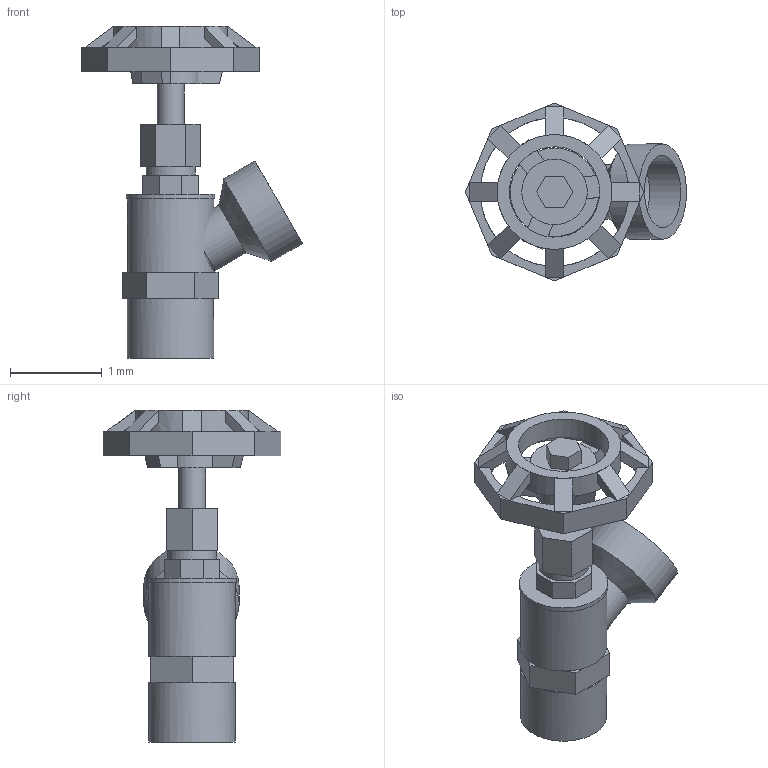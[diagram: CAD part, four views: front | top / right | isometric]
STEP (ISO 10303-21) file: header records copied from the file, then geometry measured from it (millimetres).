
FILE_DESCRIPTION(('Open CASCADE Model'),'2;1');
FILE_NAME('Open CASCADE Shape Model','2021-08-18T10:42:05',('Author'),( 'Open CASCADE'),'Open CASCADE STEP processor 7.3','Open CASCADE 7.3' ,'Unknown');
FILE_SCHEMA(('AUTOMOTIVE_DESIGN { 1 0 10303 214 1 1 1 1 }'));
Length unit declared in the file: millimetre
Products named in the file (8): Open CASCADE STEP translator 7.3 1; Open CASCADE STEP translator 7.3 1.1; Open CASCADE STEP translator 7.3 1.2; Open CASCADE STEP translator 7.3 1.3; Open CASCADE STEP translator 7.3 1.4; Open CASCADE STEP translator 7.3 1.5; Open CASCADE STEP translator 7.3 1.6; Open CASCADE STEP translator 7.3 1.7
Assembly tree (7 placements, depth 2):
  Open CASCADE STEP translator 7.3 1
    Open CASCADE STEP translator 7.3 1.1
    Open CASCADE STEP translator 7.3 1.2
    Open CASCADE STEP translator 7.3 1.3
    Open CASCADE STEP translator 7.3 1.4
    Open CASCADE STEP translator 7.3 1.5
    Open CASCADE STEP translator 7.3 1.6
    Open CASCADE STEP translator 7.3 1.7
Bounding box: 2.41 x 1.94 x 3.62 mm (x, y, z)
Volume: 1.8 mm3; surface area: 28 mm2
Topology: 3 solids, 7 shells, 177 faces, 443 edges, 263 vertices
Faces by surface type: plane 149, cylinder 26, cone 2
Full cylindrical faces by diameter (mm): 0.295 x1, 0.475 x2, 0.535 x1, 0.597 x1, 0.6 x1, 0.615 x1, 0.62 x1, 0.715 x1, 0.79 x1, 0.815 x1, 0.94 x2, 0.965 x1, 0.985 x1, 1.04 x1, 1.25 x1, 1.62 x1
Entity records: 11792 total; most frequent: CARTESIAN_POINT 2812, DIRECTION 1703, LINE 1018, VECTOR 1018, ORIENTED_EDGE 878, PCURVE 878, DEFINITIONAL_REPRESENTATION 878, EDGE_CURVE 443
